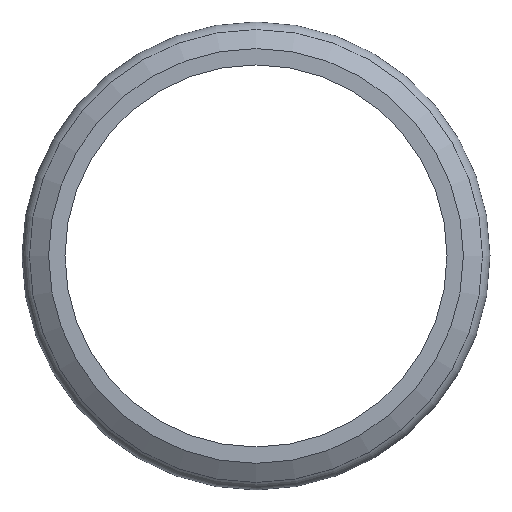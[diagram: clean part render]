
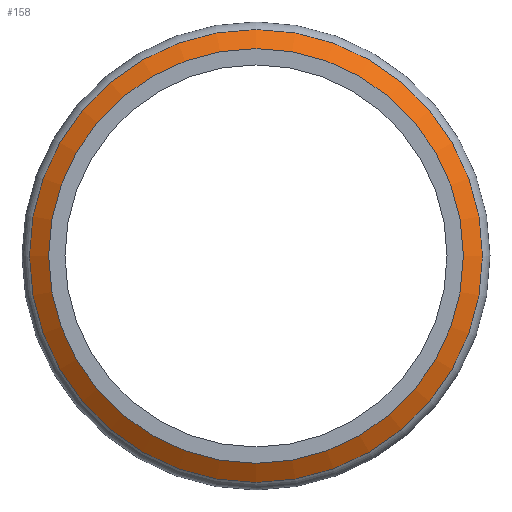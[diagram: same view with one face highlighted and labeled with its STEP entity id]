
A CAD part, top view. The second image highlights one B-rep face of the part: STEP entity #158.
In plain terms, the highlighted conical face has half-angle 57.642 degrees and reference radius 13.283 mm.
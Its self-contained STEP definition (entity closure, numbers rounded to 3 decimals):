
#23=CONICAL_SURFACE('',#190,13.283,57.642);
#35=FACE_BOUND('',#71,.T.);
#47=FACE_OUTER_BOUND('',#70,.T.);
#70=EDGE_LOOP('',(#130));
#71=EDGE_LOOP('',(#131));
#73=CIRCLE('',#169,13.867);
#83=CIRCLE('',#189,12.7);
#85=VERTEX_POINT('',#245);
#95=VERTEX_POINT('',#275);
#97=EDGE_CURVE('',#85,#85,#73,.T.);
#107=EDGE_CURVE('',#95,#95,#83,.T.);
#130=ORIENTED_EDGE('',*,*,#97,.F.);
#131=ORIENTED_EDGE('',*,*,#107,.T.);
#158=ADVANCED_FACE('',(#47,#35),#23,.T.);
#169=AXIS2_PLACEMENT_3D('',#246,#197,#198);
#189=AXIS2_PLACEMENT_3D('',#276,#237,#238);
#190=AXIS2_PLACEMENT_3D('',#277,#239,#240);
#197=DIRECTION('center_axis',(0.,0.,-1.));
#198=DIRECTION('ref_axis',(1.,0.,0.));
#237=DIRECTION('center_axis',(0.,0.,-1.));
#238=DIRECTION('ref_axis',(1.,0.,0.));
#239=DIRECTION('center_axis',(0.,0.,-1.));
#240=DIRECTION('ref_axis',(-1.,0.,0.));
#245=CARTESIAN_POINT('',(-13.867,0.,0.845));
#246=CARTESIAN_POINT('Origin',(0.,0.,0.845));
#275=CARTESIAN_POINT('',(-12.7,0.,1.584));
#276=CARTESIAN_POINT('Origin',(0.,0.,1.584));
#277=CARTESIAN_POINT('Origin',(0.,0.,1.214));
